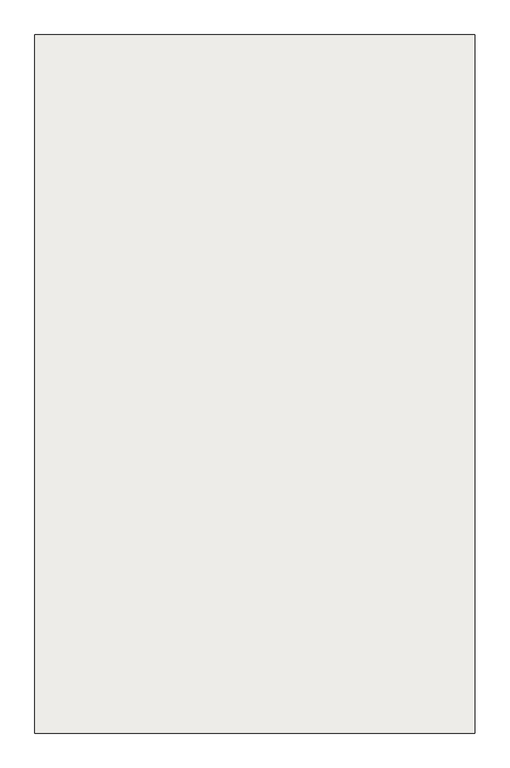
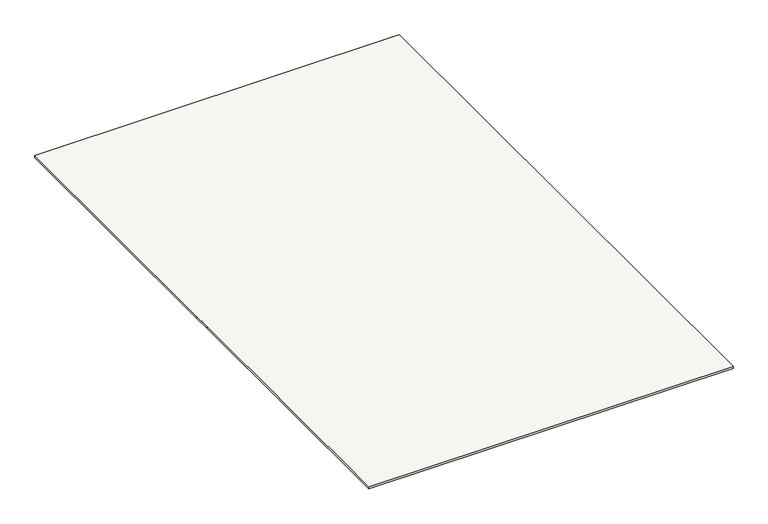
"""IFC4 building model written with IfcOpenShell, lengths in millimetres: slab geometry, Non-Monolitic_Landing."""

from ifc_helpers import new_model, si_unit, frame, origin, place, context, project, spatial, polyline, outline, extrude, source, transform, mapped, element, save


def slab_ab228be9(model_context):
    return source(origin(), model_context, "Body", "SweptSolid", [
        extrude(outline(polyline([(2198.5041438, 13524.1395051), (3748.5041438, 13524.1395051), (3748.5041438, 11064.6238126), (2198.5041438, 11064.6238126), (2198.5041438, 12254.6238126), (2198.5041438, 12334.1395051), (2198.5041438, 13524.1395051)])), frame((0.0, 0.0, 16875.0), z_axis=(0.0, 0.0, 1.0), x_axis=(1.0, 0.0, 0.0)), (0.0, 0.0, 1.0), 10.0),
    ])


if __name__ == "__main__":
    model = new_model("IFC4")
    model_context = context("Model", 3, world=origin())
    ifc_project = project(units=[si_unit("LENGTHUNIT", "METRE", prefix="MILLI")], contexts=[model_context])
    site = spatial("IfcSite", under=ifc_project)
    building = spatial("IfcBuilding", under=site)
    placement = place(None, origin())
    slab_shape = slab_ab228be9(model_context)
    element("IfcSlab", 1, ObjectType="Non-Monolitic_Landing", at=placement, inside=building, context=model_context, shape_type="MappedRepresentation", body=[
        mapped(slab_shape, transform((0.0, 0.0, 0.0), x_axis=(1.0, 0.0, 0.0), y_axis=(0.0, 1.0, 0.0), z_axis=(0.0, 0.0, 1.0))),
    ])
    save(model, "model.ifc")
